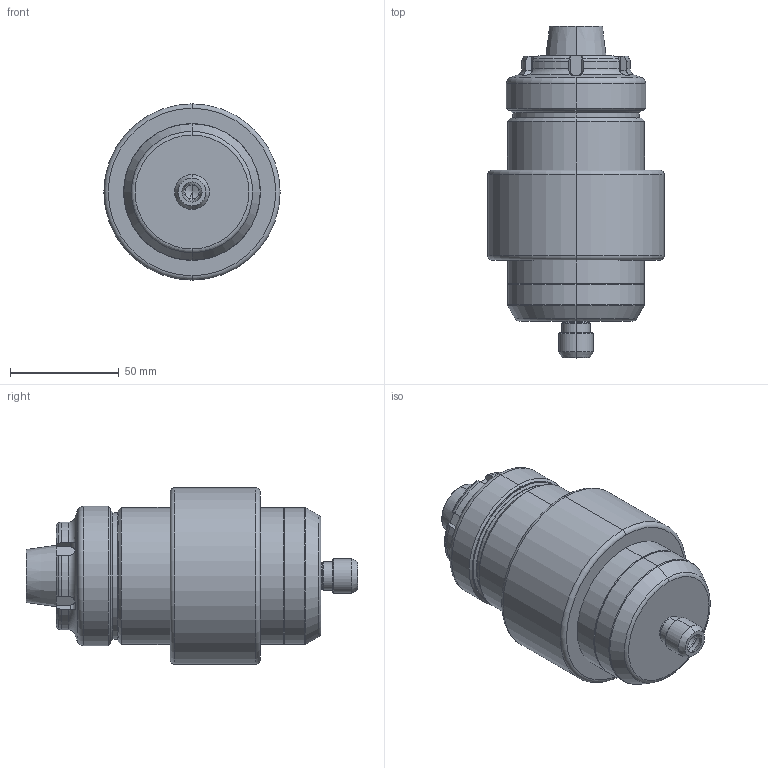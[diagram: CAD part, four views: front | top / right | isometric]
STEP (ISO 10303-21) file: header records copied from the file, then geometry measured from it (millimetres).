
FILE_DESCRIPTION (( 'STEP AP214' ), '1' );
FILE_NAME ('TJS GJET ER32 V4 - Light.STEP', '2025-11-06T15:23:37', ( 'pc' ), ( '' ), 'SwSTEP 2.0', 'SolidWorks 2024', '' );
FILE_SCHEMA (( 'AUTOMOTIVE_DESIGN' ));
Length unit declared in the file: millimetre
Products named in the file (1): TJS GJET ER32 V4 - Light
Bounding box: 81 x 152.6 x 81 mm (x, y, z)
Volume: 442926 mm3; surface area: 46678.6 mm2
Topology: 1 solids, 1 shells, 178 faces, 418 edges, 252 vertices
Faces by surface type: cylinder 58, cone 46, plane 38, torus 36
Entity records: 5303 total; most frequent: CARTESIAN_POINT 1229, DIRECTION 890, ORIENTED_EDGE 828, EDGE_CURVE 414, AXIS2_PLACEMENT_3D 369, VERTEX_POINT 252, EDGE_LOOP 192, CIRCLE 190
